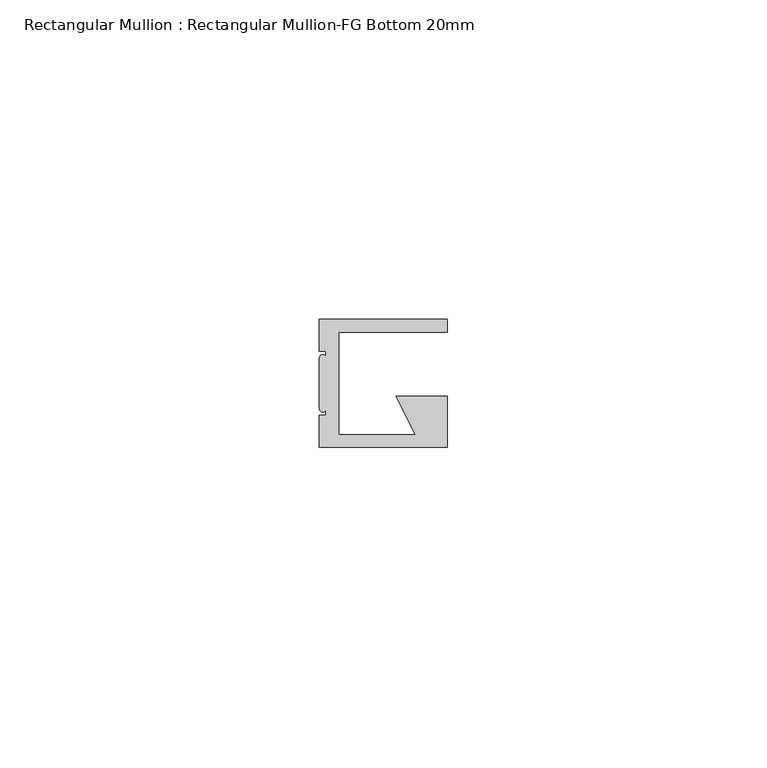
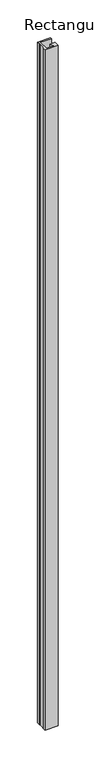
"""IFC4 building model written with IfcOpenShell, lengths in millimetres: member geometry, Rectangular Mullion : Rectangular Mullion-FG Bottom 20mm."""

from ifc_helpers import new_model, si_unit, frame, origin, place, context, project, spatial, circle_curve, source, transform, mapped, element, save
from ifc_brep_helpers import plane_surface, cylinder_surface, advanced_brep


def rectangular_mullion_rectangular_mullion_fg_bottom_20mm_01b67362(model_context):
    return source(origin(), model_context, "Body", "AdvancedBrep", [
        advanced_brep(
        [(-20.0, -5.0, 0.0), (-19.0, -5.0, 0.0), (-19.0, -6.0, 0.0), (-20.0, -6.0, 0.0), (-20.0, -14.0, 0.0), (-19.0, -14.0, 0.0), (-19.0, -15.0, 0.0), (-20.0, -15.0, 0.0), (-20.0, -20.0, 0.0), (0.0, -20.0, 0.0), (0.0, -18.0, 0.0), (0.0, -12.0, 0.0), (-8.0, -12.0, 0.0), (-5.0, -18.0, 0.0), (-17.0, -18.0, 0.0), (-17.0, -2.0, 0.0), (0.0, -2.0, 0.0), (0.0, 0.0, 0.0), (-20.0, 0.0, 0.0), (-20.0, -5.0, -1100.0), (-20.0, 0.0, -1100.0), (0.0, 0.0, -1100.0), (0.0, -2.0, -1100.0), (-17.0, -2.0, -1100.0), (-17.0, -18.0, -1100.0), (-5.0, -18.0, -1100.0), (-8.0, -12.0, -1100.0), (0.0, -12.0, -1100.0), (0.0, -18.0, -1100.0), (0.0, -20.0, -1100.0), (-20.0, -20.0, -1100.0), (-20.0, -15.0, -1100.0), (-19.0, -15.0, -1100.0), (-19.0, -14.0, -1100.0), (-20.0, -14.0, -1100.0), (-20.0, -6.0, -1100.0), (-19.0, -6.0, -1100.0), (-19.0, -5.0, -1100.0)],
        [
            (0, 1),
            (1, 2),
            (2, 3, circle_curve(frame((-19.5, -6.0, 0.0), z_axis=(0.0, 0.0, 1.0), x_axis=(-1.0, 0.0, 0.0)), 0.5)),
            (3, 4),
            (4, 5, circle_curve(frame((-19.5, -14.0, 0.0), z_axis=(0.0, 0.0, 1.0), x_axis=(-1.0, 0.0, 0.0)), 0.5)),
            (5, 6),
            (6, 7),
            (7, 8),
            (8, 9),
            (9, 10),
            (10, 11),
            (11, 12),
            (12, 13),
            (13, 14),
            (14, 15),
            (15, 16),
            (16, 17),
            (17, 18),
            (18, 0),
            (19, 20),
            (20, 21),
            (21, 22),
            (22, 23),
            (23, 24),
            (24, 25),
            (25, 26),
            (26, 27),
            (27, 28),
            (28, 29),
            (29, 30),
            (30, 31),
            (31, 32),
            (32, 33),
            (33, 34, circle_curve(frame((-19.5, -14.0, -1100.0), z_axis=(0.0, 0.0, -1.0), x_axis=(-1.0, 0.0, 0.0)), 0.5)),
            (34, 35),
            (35, 36, circle_curve(frame((-19.5, -6.0, -1100.0), z_axis=(0.0, 0.0, -1.0), x_axis=(-1.0, 0.0, 0.0)), 0.5)),
            (36, 37),
            (37, 19),
            (0, 19),
            (37, 1),
            (36, 2),
            (35, 3),
            (34, 4),
            (33, 5),
            (32, 6),
            (31, 7),
            (30, 8),
            (29, 9),
            (28, 10),
            (27, 11),
            (26, 12),
            (25, 13),
            (24, 14),
            (23, 15),
            (22, 16),
            (21, 17),
            (20, 18),
        ],
        [
            plane_surface(frame((0.0, -28.2842712, 0.0), z_axis=(0.0, 0.0, 1.0), x_axis=(-1.0, 0.0, 0.0))),
            plane_surface(frame((0.0, -28.2842712, -1100.0), z_axis=(0.0, 0.0, -1.0), x_axis=(-1.0, 0.0, 0.0))),
            plane_surface(frame((-20.0, -5.0, 0.0), z_axis=(0.0, -1.0, 0.0), x_axis=(0.0, 0.0, -1.0))),
            plane_surface(frame((-19.0, -5.0, 0.0), z_axis=(-1.0, 0.0, 0.0), x_axis=(0.0, 0.0, -1.0))),
            cylinder_surface(frame((-19.5, -6.0, 0.0), z_axis=(0.0, 0.0, 1.0), x_axis=(-1.0, 0.0, 0.0)), 0.5),
            plane_surface(frame((-20.0, -6.0, 0.0), z_axis=(-1.0, 0.0, 0.0), x_axis=(0.0, 0.0, -1.0))),
            cylinder_surface(frame((-19.5, -14.0, 0.0), z_axis=(0.0, 0.0, 1.0), x_axis=(-1.0, 0.0, 0.0)), 0.5),
            plane_surface(frame((-19.0, -14.0, 0.0), z_axis=(-1.0, 0.0, 0.0), x_axis=(0.0, 0.0, -1.0))),
            plane_surface(frame((-19.0, -15.0, 0.0), z_axis=(0.0, 1.0, 0.0), x_axis=(0.0, 0.0, -1.0))),
            plane_surface(frame((-20.0, -15.0, 0.0), z_axis=(-1.0, 0.0, 0.0), x_axis=(0.0, 0.0, -1.0))),
            plane_surface(frame((-20.0, -20.0, 0.0), z_axis=(0.0, -1.0, 0.0), x_axis=(0.0, 0.0, -1.0))),
            plane_surface(frame((0.0, -20.0, 0.0), z_axis=(1.0, 0.0, 0.0), x_axis=(0.0, 0.0, -1.0))),
            plane_surface(frame((0.0, -18.0, 0.0), z_axis=(1.0, 0.0, 0.0), x_axis=(0.0, 0.0, -1.0))),
            plane_surface(frame((0.0, -12.0, 0.0), z_axis=(0.0, 1.0, 0.0), x_axis=(0.0, 0.0, -1.0))),
            plane_surface(frame((-8.0, -12.0, 0.0), z_axis=(-0.8944271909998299, -0.4472135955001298, 0.0), x_axis=(0.0, 0.0, -1.0))),
            plane_surface(frame((-5.0, -18.0, 0.0), z_axis=(0.0, 1.0, 0.0), x_axis=(0.0, 0.0, -1.0))),
            plane_surface(frame((-17.0, -18.0, 0.0), z_axis=(1.0, 0.0, 0.0), x_axis=(0.0, 0.0, -1.0))),
            plane_surface(frame((-17.0, -2.0, 0.0), z_axis=(0.0, -1.0, 0.0), x_axis=(0.0, 0.0, -1.0))),
            plane_surface(frame((0.0, -2.0, 0.0), z_axis=(1.0, 0.0, 0.0), x_axis=(0.0, 0.0, -1.0))),
            plane_surface(frame((0.0, 0.0, 0.0), z_axis=(0.0, 1.0, 0.0), x_axis=(0.0, 0.0, -1.0))),
            plane_surface(frame((-20.0, 0.0, 0.0), z_axis=(-1.0, 0.0, 0.0), x_axis=(0.0, 0.0, -1.0))),
        ],
        [
            (0, [[1, 2, 3, 4, 5, 6, 7, 8, 9, 10, 11, 12, 13, 14, 15, 16, 17, 18, 19]]),
            (1, [[20, 21, 22, 23, 24, 25, 26, 27, 28, 29, 30, 31, 32, 33, 34, 35, 36, 37, 38]]),
            (2, [[-1, 39, -38, 40]]),
            (3, [[-2, -40, -37, 41]]),
            (4, [[-3, -41, -36, 42]]),
            (5, [[-4, -42, -35, 43]]),
            (6, [[-5, -43, -34, 44]]),
            (7, [[-6, -44, -33, 45]]),
            (8, [[-7, -45, -32, 46]]),
            (9, [[-8, -46, -31, 47]]),
            (10, [[-9, -47, -30, 48]]),
            (11, [[-10, -48, -29, 49]]),
            (12, [[-11, -49, -28, 50]]),
            (13, [[-12, -50, -27, 51]]),
            (14, [[-13, -51, -26, 52]]),
            (15, [[-14, -52, -25, 53]]),
            (16, [[-15, -53, -24, 54]]),
            (17, [[-16, -54, -23, 55]]),
            (18, [[-17, -55, -22, 56]]),
            (19, [[-18, -56, -21, 57]]),
            (20, [[-19, -57, -20, -39]]),
        ],
    ),
    ])


if __name__ == "__main__":
    model = new_model("IFC4")
    model_context = context("Model", 3, world=origin())
    ifc_project = project(units=[si_unit("LENGTHUNIT", "METRE", prefix="MILLI")], contexts=[model_context])
    site = spatial("IfcSite", under=ifc_project)
    building = spatial("IfcBuilding", under=site)
    placement = place(None, origin())
    rectangular_mullion_rectangular_mullion_fg_bottom_20mm_shape = rectangular_mullion_rectangular_mullion_fg_bottom_20mm_01b67362(model_context)
    element("IfcMember", 1, ObjectType="Rectangular Mullion : Rectangular Mullion-FG Bottom 20mm", at=placement, inside=building, context=model_context, shape_type="MappedRepresentation", body=[
        mapped(rectangular_mullion_rectangular_mullion_fg_bottom_20mm_shape, transform((0.0, 0.0, 0.0), x_axis=(1.0, 0.0, 0.0), y_axis=(0.0, 1.0, 0.0), z_axis=(0.0, 0.0, 1.0))),
    ])
    save(model, "model.ifc")
